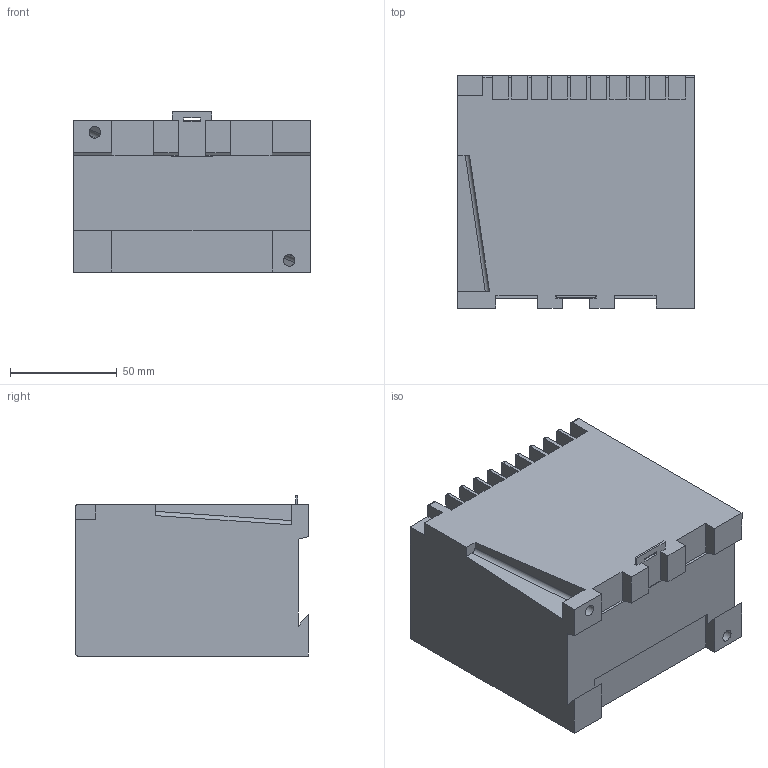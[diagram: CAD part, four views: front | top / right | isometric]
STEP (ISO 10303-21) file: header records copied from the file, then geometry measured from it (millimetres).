
FILE_DESCRIPTION(/* description */ (''),/* implementation_level */ '2;1');
FILE_NAME(/* name */ 'X:\Digidirect\CAD\Importierte Komponenten\X200\X200.stp',/* time_stamp */ '2013-10-10T11:17:47+02:00',/* author */ ('Maik Jost'),/* organization */ (''),/* preprocessor_version */ 'ST-DEVELOPER v15.2',/* originating_system */ 'Autodesk Inventor 2014',/* authorisation */ '');
FILE_SCHEMA (('CONFIG_CONTROL_DESIGN'));
Length unit declared in the file: millimetre
Products named in the file (1): X200
Bounding box: 111 x 109 x 75 mm (x, y, z)
Volume: 792031.6 mm3; surface area: 63293.6 mm2
Topology: 2 solids, 2 shells, 168 faces, 490 edges, 326 vertices
Faces by surface type: plane 142, cylinder 26
Full cylindrical faces by diameter (mm): 5.5 x2
Entity records: 5510 total; most frequent: CARTESIAN_POINT 983, ORIENTED_EDGE 976, DIRECTION 878, EDGE_CURVE 488, LINE 436, VECTOR 436, VERTEX_POINT 326, AXIS2_PLACEMENT_3D 221
